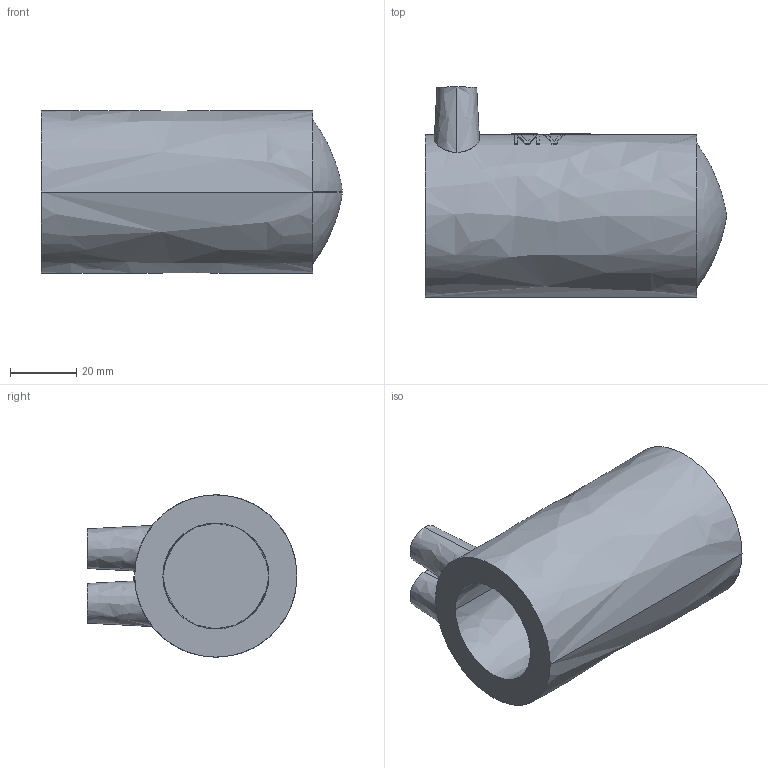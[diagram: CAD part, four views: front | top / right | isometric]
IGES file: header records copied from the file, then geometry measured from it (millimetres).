
Start section:  PTC IGES file: mv_d32.igs
Global section: file name: mv_d32.igs; native system: Pro/ENGINEER by Parametric Technology Corporation; preprocessor: 2006140; author: muellerc; organization: Unknown; date: 20060803.100847; units: millimetre
Bounding box: 91 x 63.4 x 49 mm (x, y, z)
Surface area: 22126.8 mm2 (no closed solid volume)
Topology: 0 solids, 0 shells, 53 faces, 325 edges, 330 vertices
Faces by surface type: bspline 53
